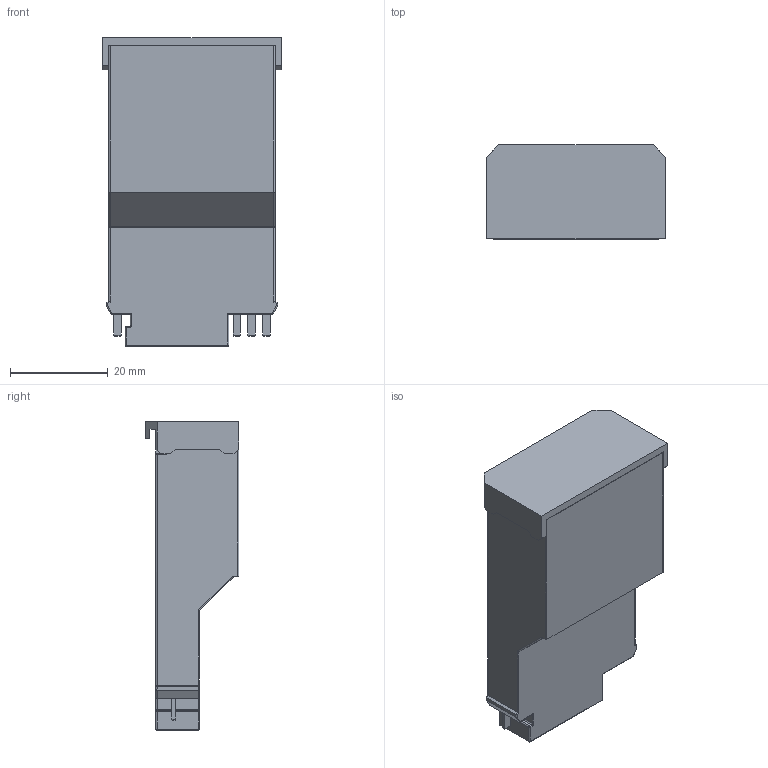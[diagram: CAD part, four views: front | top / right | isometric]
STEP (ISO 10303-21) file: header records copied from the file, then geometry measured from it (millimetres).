
FILE_DESCRIPTION (( 'STEP AP214' ), '1' );
FILE_NAME ('CT515R_CT524R.STEP', '2024-04-17T12:45:44', ( '' ), ( '' ), 'SwSTEP 2.0', 'SolidWorks 2022', '' );
FILE_SCHEMA (( 'AUTOMOTIVE_DESIGN' ));
Length unit declared in the file: millimetre
Products named in the file (1): CT515R_CT524R
Bounding box: 36.5 x 19.2 x 63.1 mm (x, y, z)
Volume: 14833.1 mm3; surface area: 12069.7 mm2
Topology: 1 solids, 2 shells, 177 faces, 437 edges, 262 vertices
Faces by surface type: plane 111, cylinder 50, bspline 16
Entity records: 6060 total; most frequent: CARTESIAN_POINT 1251, ORIENTED_EDGE 862, DIRECTION 781, EDGE_CURVE 431, LINE 337, VECTOR 337, VERTEX_POINT 262, AXIS2_PLACEMENT_3D 222
